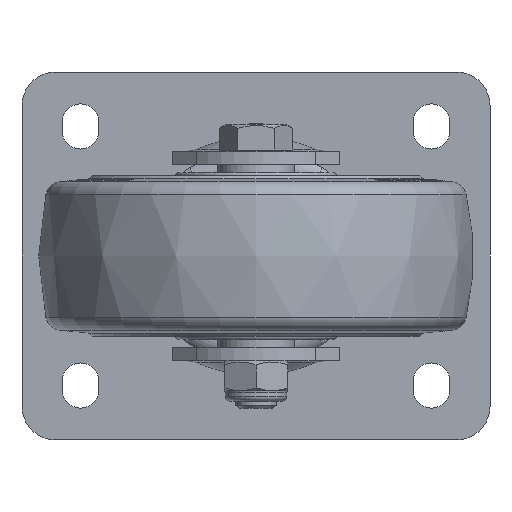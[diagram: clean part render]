
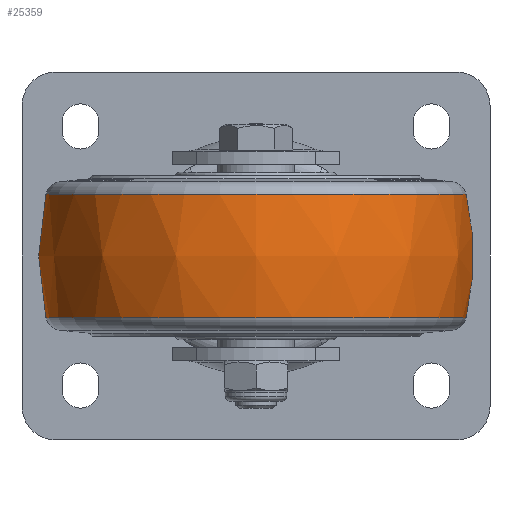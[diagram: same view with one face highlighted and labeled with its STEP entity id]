
A CAD part, front view. The second image highlights one B-rep face of the part: STEP entity #25359.
In plain terms, the highlighted free-form (B-spline) face has degree [2, 2] with [3, 9] control points.
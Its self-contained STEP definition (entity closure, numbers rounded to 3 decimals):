
#23=(
BOUNDED_SURFACE()
B_SPLINE_SURFACE(2,2,((#46516,#46517,#46518,#46519,#46520,#46521,#46522,
#46523,#46524),(#46525,#46526,#46527,#46528,#46529,#46530,#46531,#46532,
#46533),(#46534,#46535,#46536,#46537,#46538,#46539,#46540,#46541,#46542)),
 .UNSPECIFIED.,.F.,.T.,.F.)
B_SPLINE_SURFACE_WITH_KNOTS((3,3),(3,2,2,2,3),(-0.233,0.233),
(-3.142,-1.571,0.,1.571,3.142),
 .UNSPECIFIED.)
GEOMETRIC_REPRESENTATION_ITEM()
RATIONAL_B_SPLINE_SURFACE(((1.,0.707,1.,0.707,1.,
0.707,1.,0.707,1.),(0.973,0.688,
0.973,0.688,0.973,0.688,
0.973,0.688,0.973),(1.,0.707,
1.,0.707,1.,0.707,1.,0.707,1.)))
REPRESENTATION_ITEM('')
SURFACE()
);
#4289=FACE_OUTER_BOUND('',#5929,.T.);
#5929=EDGE_LOOP('',(#22122,#22123,#22124,#22125));
#9691=CIRCLE('',#26685,62.847);
#9692=CIRCLE('',#26686,62.847);
#9693=CIRCLE('',#26687,80.);
#12054=VERTEX_POINT('',#46513);
#12055=VERTEX_POINT('',#46543);
#15441=EDGE_CURVE('',#12054,#12054,#9691,.T.);
#15442=EDGE_CURVE('',#12055,#12055,#9692,.T.);
#15443=EDGE_CURVE('',#12055,#12054,#9693,.T.);
#22122=ORIENTED_EDGE('',*,*,#15442,.F.);
#22123=ORIENTED_EDGE('',*,*,#15443,.T.);
#22124=ORIENTED_EDGE('',*,*,#15441,.F.);
#22125=ORIENTED_EDGE('',*,*,#15443,.F.);
#25359=ADVANCED_FACE('',(#4289),#23,.F.);
#26685=AXIS2_PLACEMENT_3D('',#46515,#30477,#30478);
#26686=AXIS2_PLACEMENT_3D('',#46544,#30479,#30480);
#26687=AXIS2_PLACEMENT_3D('',#46545,#30481,#30482);
#30477=DIRECTION('center_axis',(0.,0.,
-1.));
#30478=DIRECTION('ref_axis',(-1.,0.,0.));
#30479=DIRECTION('center_axis',(0.,0.,
1.));
#30480=DIRECTION('ref_axis',(-1.,0.,0.));
#30481=DIRECTION('center_axis',(0.,1.,0.));
#30482=DIRECTION('ref_axis',(1.,0.,0.));
#46513=CARTESIAN_POINT('',(62.847,-106.,-18.435));
#46515=CARTESIAN_POINT('Origin',(0.,-106.,-18.435));
#46516=CARTESIAN_POINT('Ctrl Pts',(62.847,-106.,18.435));
#46517=CARTESIAN_POINT('Ctrl Pts',(62.847,-168.847,18.435));
#46518=CARTESIAN_POINT('Ctrl Pts',(0.,-168.847,
18.435));
#46519=CARTESIAN_POINT('Ctrl Pts',(-62.847,-168.847,
18.435));
#46520=CARTESIAN_POINT('Ctrl Pts',(-62.847,-106.,18.435));
#46521=CARTESIAN_POINT('Ctrl Pts',(-62.847,-43.153,
18.435));
#46522=CARTESIAN_POINT('Ctrl Pts',(0.,-43.153,
18.435));
#46523=CARTESIAN_POINT('Ctrl Pts',(62.847,-43.153,18.435));
#46524=CARTESIAN_POINT('Ctrl Pts',(62.847,-106.,18.435));
#46525=CARTESIAN_POINT('Ctrl Pts',(67.213,-106.,0.));
#46526=CARTESIAN_POINT('Ctrl Pts',(67.213,-173.213,0.));
#46527=CARTESIAN_POINT('Ctrl Pts',(0.,-173.213,
0.));
#46528=CARTESIAN_POINT('Ctrl Pts',(-67.213,-173.213,
0.));
#46529=CARTESIAN_POINT('Ctrl Pts',(-67.213,-106.,0.));
#46530=CARTESIAN_POINT('Ctrl Pts',(-67.213,-38.787,
0.));
#46531=CARTESIAN_POINT('Ctrl Pts',(0.,-38.787,
0.));
#46532=CARTESIAN_POINT('Ctrl Pts',(67.213,-38.787,0.));
#46533=CARTESIAN_POINT('Ctrl Pts',(67.213,-106.,0.));
#46534=CARTESIAN_POINT('Ctrl Pts',(62.847,-106.,-18.435));
#46535=CARTESIAN_POINT('Ctrl Pts',(62.847,-168.847,-18.435));
#46536=CARTESIAN_POINT('Ctrl Pts',(0.,-168.847,
-18.435));
#46537=CARTESIAN_POINT('Ctrl Pts',(-62.847,-168.847,
-18.435));
#46538=CARTESIAN_POINT('Ctrl Pts',(-62.847,-106.,-18.435));
#46539=CARTESIAN_POINT('Ctrl Pts',(-62.847,-43.153,
-18.435));
#46540=CARTESIAN_POINT('Ctrl Pts',(0.,-43.153,
-18.435));
#46541=CARTESIAN_POINT('Ctrl Pts',(62.847,-43.153,-18.435));
#46542=CARTESIAN_POINT('Ctrl Pts',(62.847,-106.,-18.435));
#46543=CARTESIAN_POINT('',(62.847,-106.,18.435));
#46544=CARTESIAN_POINT('Origin',(0.,-106.,18.435));
#46545=CARTESIAN_POINT('Origin',(-15.,-106.,0.));
